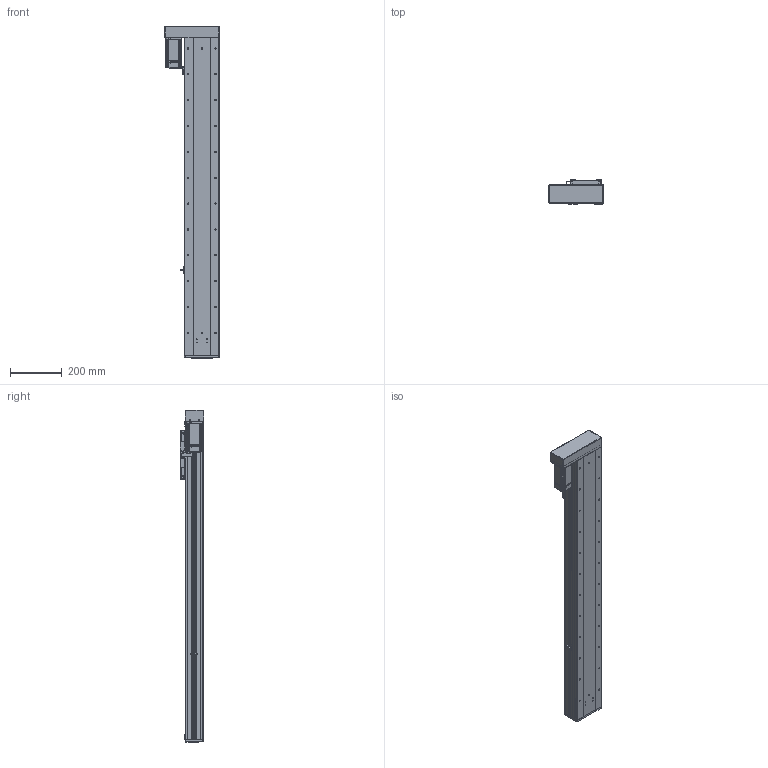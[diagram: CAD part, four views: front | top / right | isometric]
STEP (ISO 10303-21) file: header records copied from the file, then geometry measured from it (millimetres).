
FILE_DESCRIPTION (( 'STEP AP203' ), '1' );
FILE_NAME ('RY140F-L2020-300-LK.SLDASM_950.step', '2021-03-02T08:37:37', ( '盈信电脑' ), ( '东莞市道滘镇水果街19号' ), 'SwSTEP 2.0', 'SolidWorks 2012', '' );
FILE_SCHEMA (( 'CONFIG_CONTROL_DESIGN' ));
Products named in the file (19): RY140F-左右折电机安装板(400W M5); RY140F-酘衵殏萇儂欶(400W); RY140F-L2020-300-LK.SLDASM_950; RY140F-转折折电机座（7001）; 侐源滅袉蝶; RY140F-詩湍揤え; RY140F-672覜茼んえ; 15; RY140F-后盖板(铝件）; 覜茼ん672; 侂狟400W侜督萇儂; RY140F-詩湍幗謫粣; RY100F-詩湍揤踡謫; RY140F-直连型材铝滑块(16丝杆); RY140F-滅鳥奻裔; RY140F-直连型材铝滑块连接座; RY140F-300-LK倰第奻裔啣_950; RY140F-300-LK蛌殏詩湍_950; RY140F-300-LK倰第菁釱_950
Assembly tree (23 placements, depth 3):
  RY140F-L2020-300-LK.SLDASM_950
    RY140F-300-LK倰第菁釱_950
    RY140F-300-LK倰第奻裔啣_950  x2
    RY140F-300-LK蛌殏詩湍_950
    RY140F-直连型材铝滑块连接座
    RY140F-滅鳥奻裔
    RY140F-詩湍幗謫粣
    RY100F-詩湍揤踡謫
    RY140F-直连型材铝滑块(16丝杆)
    RY140F-后盖板(铝件）
    侂狟400W侜督萇儂
      15
    覜茼ん672
    RY140F-672覜茼んえ
    RY140F-詩湍揤え  x2
    侐源滅袉蝶  x4
    RY140F-转折折电机座（7001）
    RY140F-左右折电机安装板(400W M5)
    RY140F-酘衵殏萇儂欶(400W)
Bounding box: 211 x 91 x 1284 mm (x, y, z)
Volume: 4827862.5 mm3; surface area: 1728054.1 mm2
Topology: 22 solids, 22 shells, 2093 faces, 5701 edges, 3602 vertices
Faces by surface type: cylinder 1024, plane 789, cone 250, bspline 26, torus 4
Entity records: 65875 total; most frequent: CARTESIAN_POINT 13851, DIRECTION 10606, ORIENTED_EDGE 10242, EDGE_CURVE 5121, AXIS2_PLACEMENT_3D 3821, VERTEX_POINT 3342, VECTOR 2964, LINE 2964
